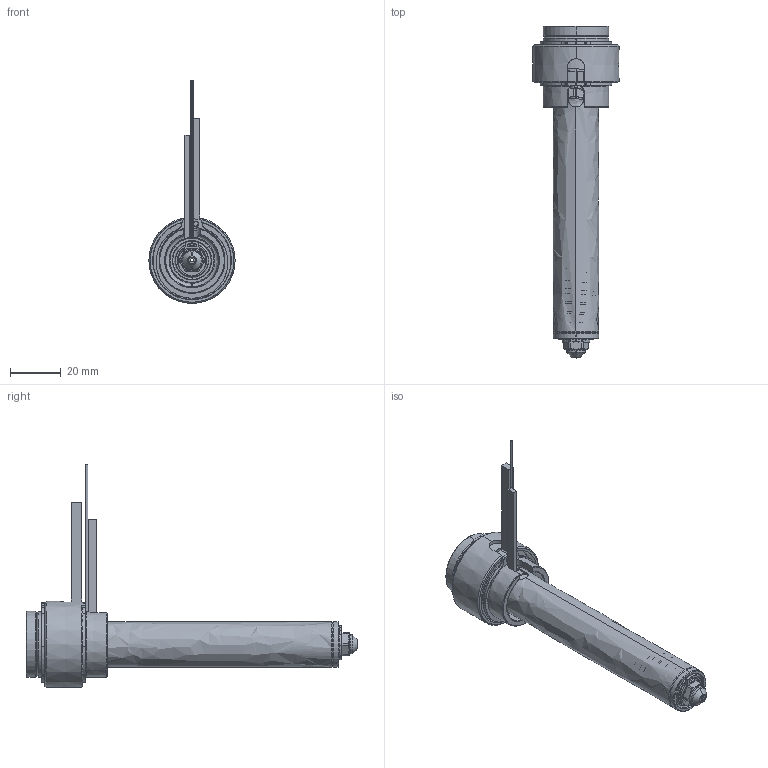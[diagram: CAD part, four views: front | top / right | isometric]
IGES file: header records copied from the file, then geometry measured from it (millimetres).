
Start section: SolidWorks IGES file using analytic representation for surfaces
Global section: file name: C:\Documents and Settings\ws-20\Desktop\TEM\UGER2504-S-A-1 [Øb-1.30 ØC-5.0].IGS; native system: SolidWorks 2012; preprocessor: SolidWorks 2012; author: ws-20; date: 120405.105453; units: millimetre
Bounding box: 34 x 130.9 x 87.9 mm (x, y, z)
Surface area: 22868.2 mm2 (no closed solid volume)
Topology: 0 solids, 0 shells, 193 faces, 2433 edges, 2433 vertices
Faces by surface type: revolution 123, bspline 70
